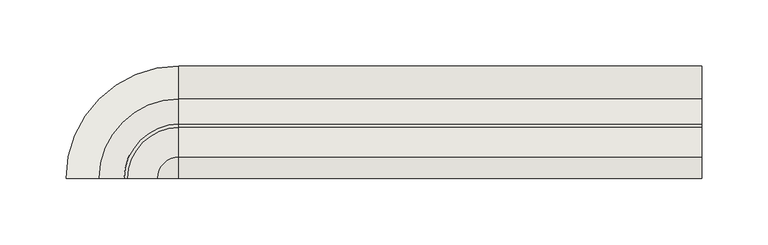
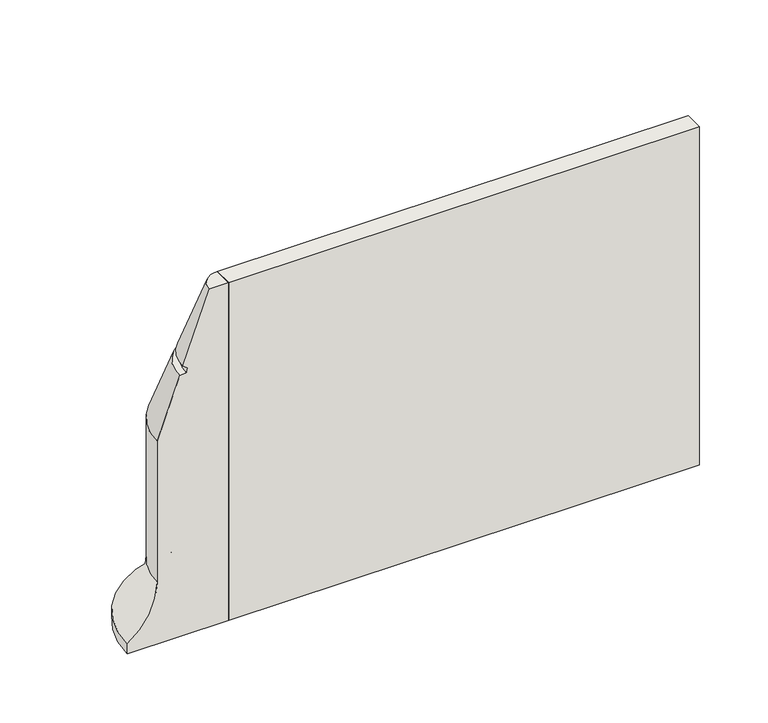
"""IFC4 building model written with IfcOpenShell, lengths in millimetres: wall geometry, GM_PC_UN_ACO kerb PB outside corner_ACO : PB H300 standard."""

from ifc_helpers import new_model, si_unit, frame, origin, place, context, project, spatial, polyline, circle_curve, source, transform, mapped, element, save
from ifc_brep_helpers import plane_surface, cylinder_surface, revolved_surface, extruded_surface, spline_curve, advanced_brep


def wall_c90a62e6(model_context):
    return source(origin(), model_context, "Body", "AdvancedBrep", [
        advanced_brep(
        [(0.0, 85.0, 8.9329844), (0.0, 85.0, -0.0124899), (0.0, 0.0, -0.0124899), (0.0, 0.0, 300.0008401), (0.0, 16.191681, 300.0008401), (0.0, 38.3747848, 239.3170113), (0.0, 34.2965161, 236.00239), (0.0, 35.6304755, 232.1929291), (0.0, 41.0897152, 231.6973826), (0.0, 60.02016, 180.0038512), (0.0, 60.02016, 54.9904169), (395.0, 85.0, 8.9329844), (395.0, 60.02016, 54.9904169), (395.0, 60.02016, 180.0038512), (395.0, 41.0897152, 231.6973826), (395.0, 35.6304755, 232.1929291), (395.0, 34.2965161, 236.00239), (395.0, 38.3747848, 239.3170113), (395.0, 16.191681, 300.0008401), (395.0, 0.0, 300.0008401), (395.0, 0.0, -0.0124899), (395.0, 85.0, -0.0124899)],
        [
            (0, 1),
            (1, 2),
            (2, 3),
            (3, 4),
            (4, 5),
            (5, 6),
            (6, 7),
            (7, 8),
            (8, 9),
            (9, 10),
            (10, 0, spline_curve(3, [(0.0, 60.02016, 54.9904169), (0.0, 60.0210198, 36.401179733), (0.0, 69.4194957, 19.0724445), (0.0, 85.0, 8.9329844)], [4, 4], [0.0, 1.0])),
            (11, 12, spline_curve(3, [(395.0, 85.0, 8.9329844), (395.0, 69.4194957, 19.0724445), (395.0, 60.0210198, 36.401179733), (395.0, 60.02016, 54.9904169)], [4, 4], [0.0, 1.0])),
            (12, 13),
            (13, 14),
            (14, 15),
            (15, 16),
            (16, 17),
            (17, 18),
            (18, 19),
            (19, 20),
            (20, 21),
            (21, 11),
            (10, 12),
            (11, 0),
            (9, 13),
            (8, 14),
            (7, 15),
            (6, 16),
            (5, 17),
            (4, 18),
            (3, 19),
            (2, 20),
            (1, 21),
        ],
        [
            plane_surface(frame((0.0, 0.0, 0.0), z_axis=(-1.0, 0.0, 0.0), x_axis=(0.0, 0.0, 1.0))),
            plane_surface(frame((395.0, 0.0, 0.0), z_axis=(1.0, 0.0, 0.0), x_axis=(0.0, 0.0, 1.0))),
            extruded_surface(spline_curve(3, [(395.0, 60.02016, 54.9904169), (395.0, 60.0210198, 36.401179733), (395.0, 69.4194957, 19.0724445), (395.0, 85.0, 8.9329844)], [4, 4], [0.0, 1.0]), (-395.0, 0.0, 0.0), 395.0),
            plane_surface(frame((0.0, 60.02016, 180.0038512), z_axis=(0.0, 1.0, 0.0), x_axis=(1.0, 0.0, 0.0))),
            plane_surface(frame((0.0, 41.0897152, 231.6973826), z_axis=(0.0, 0.9390162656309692, 0.34387272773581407), x_axis=(1.0, 0.0, 0.0))),
            plane_surface(frame((0.0, 35.6304755, 232.1929291), z_axis=(0.0, 0.09040040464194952, 0.995905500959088), x_axis=(1.0, 0.0, 0.0))),
            plane_surface(frame((0.0, 34.2965161, 236.00239), z_axis=(0.0, 0.9438082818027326, 0.3304934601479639), x_axis=(1.0, 0.0, 0.0))),
            plane_surface(frame((0.0, 38.3747848, 239.3170113), z_axis=(0.0, 0.6307104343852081, -0.776018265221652), x_axis=(1.0, 0.0, 0.0))),
            plane_surface(frame((0.0, 16.191681, 300.0008401), z_axis=(0.0, 0.9392141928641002, 0.3433317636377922), x_axis=(1.0, 0.0, 0.0))),
            plane_surface(frame((0.0, 0.0, 300.0008401), z_axis=(0.0, 0.0, 1.0), x_axis=(1.0, 0.0, 0.0))),
            plane_surface(frame((0.0, 0.0, -0.0124899), z_axis=(0.0, -1.0, 0.0), x_axis=(1.0, 0.0, 0.0))),
            plane_surface(frame((0.0, 85.0, -0.0124899), z_axis=(0.0, 0.0, -1.0), x_axis=(1.0, 0.0, 0.0))),
            plane_surface(frame((0.0, 85.0, 8.9329844), z_axis=(0.0, 1.0, 0.0), x_axis=(1.0, 0.0, 0.0))),
        ],
        [
            (0, [[1, 2, 3, 4, 5, 6, 7, 8, 9, 10, 11]]),
            (1, [[12, 13, 14, 15, 16, 17, 18, 19, 20, 21, 22]]),
            (2, [[-11, 23, -12, 24]]),
            (3, [[-10, 25, -13, -23]]),
            (4, [[-9, 26, -14, -25]]),
            (5, [[-8, 27, -15, -26]]),
            (6, [[-7, 28, -16, -27]]),
            (7, [[-6, 29, -17, -28]]),
            (8, [[-5, 30, -18, -29]]),
            (9, [[-4, 31, -19, -30]]),
            (10, [[-3, 32, -20, -31]]),
            (11, [[-2, 33, -21, -32]]),
            (12, [[-1, -24, -22, -33]]),
        ],
    ),
        advanced_brep(
        [(0.0, 85.0, 8.9329844), (0.0, 60.02016, 54.9904169), (0.0, 60.02016, 180.0038512), (0.0, 41.0897152, 231.6973826), (0.0, 35.6304755, 232.1929291), (0.0, 34.2965161, 236.00239), (0.0, 38.3747848, 239.3170113), (0.0, 16.191681, 300.0), (0.0, 0.0, 300.0), (0.0, 0.0, 0.0), (0.0, 85.0, 0.0), (-85.0, 0.0, 8.9329844), (-85.0, 0.0, 0.0), (-16.191681, 0.0, 300.0), (-38.3747848, 0.0, 239.3170113), (-34.2965161, 0.0, 236.00239), (-35.6304755, 0.0, 232.1929291), (-41.0897152, 0.0, 231.6973826), (-60.02016, 0.0, 180.0038512), (-60.02016, 0.0, 54.9904169)],
        [
            (0, 1, spline_curve(3, [(0.0, 85.0, 8.9329844), (0.0, 69.4194957, 19.0724445), (0.0, 60.0210198, 36.401179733), (0.0, 60.02016, 54.9904169)], [4, 4], [0.0, 1.0])),
            (1, 2),
            (2, 3),
            (3, 4),
            (4, 5),
            (5, 6),
            (6, 7),
            (7, 8),
            (8, 9),
            (9, 10),
            (10, 0),
            (11, 12),
            (12, 9),
            (8, 13),
            (13, 14),
            (14, 15),
            (15, 16),
            (16, 17),
            (17, 18),
            (18, 19),
            (19, 11, spline_curve(3, [(-60.02016, 0.0, 54.9904169), (-60.0210198, 0.0, 36.401179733), (-69.4194957, 0.0, 19.0724445), (-85.0, 0.0, 8.9329844)], [4, 4], [0.0, 1.0])),
            (19, 1, circle_curve(frame((0.0, 0.0, 54.9904169), z_axis=(0.0, 0.0, -1.0), x_axis=(0.0, 1.0, 0.0)), 60.02016)),
            (0, 11, circle_curve(frame((0.0, 0.0, 8.9329844), z_axis=(0.0, 0.0, 1.0), x_axis=(0.0, 1.0, 0.0)), 85.0)),
            (18, 2, circle_curve(frame((0.0, 0.0, 180.0038512), z_axis=(0.0, 0.0, -1.0), x_axis=(0.0, 1.0, 0.0)), 60.02016)),
            (17, 3, circle_curve(frame((0.0, 0.0, 231.6973826), z_axis=(0.0, 0.0, -1.0), x_axis=(0.0, 1.0, 0.0)), 41.0897152)),
            (16, 4, circle_curve(frame((0.0, 0.0, 232.1929291), z_axis=(0.0, 0.0, -1.0), x_axis=(0.0, 1.0, 0.0)), 35.6304755)),
            (15, 5, circle_curve(frame((0.0, 0.0, 236.00239), z_axis=(0.0, 0.0, -1.0), x_axis=(0.0, 1.0, 0.0)), 34.2965161)),
            (14, 6, circle_curve(frame((0.0, 0.0, 239.3170113), z_axis=(0.0, 0.0, -1.0), x_axis=(0.0, 1.0, 0.0)), 38.3747848)),
            (13, 7, circle_curve(frame((0.0, 0.0, 300.0), z_axis=(0.0, 0.0, -1.0), x_axis=(0.0, 1.0, 0.0)), 16.191681)),
            (12, 10, circle_curve(frame((0.0, 0.0, 0.0), z_axis=(0.0, 0.0, -1.0), x_axis=(0.0, 1.0, 0.0)), 85.0)),
        ],
        [
            plane_surface(frame((0.0, 0.0, 559.9991599), z_axis=(1.0, 0.0, 0.0), x_axis=(0.0, 1.0, 0.0))),
            plane_surface(frame((0.0, 0.0, 559.9991599), z_axis=(0.0, -1.0, 0.0), x_axis=(-1.0, 0.0, 0.0))),
            revolved_surface(spline_curve(3, [(0.0, 85.0, 8.9329844), (0.0, 69.4194957, 19.0724445), (0.0, 60.0210198, 36.401179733), (0.0, 60.02016, 54.9904169)], [4, 4], [0.0, 1.0]), (0.0, 0.0, 559.9991599), (0.0, 0.0, 1.0)),
            cylinder_surface(frame((0.0, 0.0, 559.9991599), z_axis=(0.0, 0.0, 1.0), x_axis=(0.0, 1.0, 0.0)), 60.02016),
            revolved_surface(polyline([(0.0, 60.02016, 180.0038512), (0.0, 41.0897152, 231.6973826)]), (0.0, 0.0, 559.9991599), (0.0, 0.0, 1.0)),
            revolved_surface(polyline([(0.0, 41.0897152, 231.6973826), (0.0, 35.6304755, 232.1929291)]), (0.0, 0.0, 559.9991599), (0.0, 0.0, 1.0)),
            revolved_surface(polyline([(0.0, 35.6304755, 232.1929291), (0.0, 34.2965161, 236.00239)]), (0.0, 0.0, 559.9991599), (0.0, 0.0, 1.0)),
            revolved_surface(polyline([(0.0, 34.2965161, 236.00239), (0.0, 38.3747848, 239.3170113)]), (0.0, 0.0, 559.9991599), (0.0, 0.0, 1.0)),
            revolved_surface(polyline([(0.0, 38.3747848, 239.3170113), (0.0, 16.191681, 300.0)]), (0.0, 0.0, 559.9991599), (0.0, 0.0, 1.0)),
            plane_surface(frame((0.0, 0.0, 300.0), z_axis=(0.0, 0.0, 1.0), x_axis=(0.0, 1.0, 0.0))),
            plane_surface(frame((0.0, 0.0, 0.0), z_axis=(0.0, 0.0, -1.0), x_axis=(0.0, 1.0, 0.0))),
            cylinder_surface(frame((0.0, 0.0, 559.9991599), z_axis=(0.0, 0.0, 1.0), x_axis=(0.0, 1.0, 0.0)), 85.0),
        ],
        [
            (0, [[1, 2, 3, 4, 5, 6, 7, 8, 9, 10, 11]]),
            (1, [[12, 13, -9, 14, 15, 16, 17, 18, 19, 20, 21]]),
            (2, [[22, -1, 23, -21]]),
            (3, [[24, -2, -22, -20]]),
            (4, [[25, -3, -24, -19]]),
            (5, [[26, -4, -25, -18]]),
            (6, [[27, -5, -26, -17]]),
            (7, [[28, -6, -27, -16]]),
            (8, [[29, -7, -28, -15]]),
            (9, [[-8, -29, -14]]),
            (10, [[30, -10, -13]]),
            (11, [[-23, -11, -30, -12]]),
        ],
    ),
    ])


if __name__ == "__main__":
    model = new_model("IFC4")
    model_context = context("Model", 3, world=origin())
    ifc_project = project(units=[si_unit("LENGTHUNIT", "METRE", prefix="MILLI")], contexts=[model_context])
    site = spatial("IfcSite", under=ifc_project)
    building = spatial("IfcBuilding", under=site)
    placement = place(None, origin())
    wall_shape = wall_c90a62e6(model_context)
    element("IfcWall", 1, ObjectType="GM_PC_UN_ACO kerb PB outside corner_ACO : PB H300 standard", at=placement, inside=building, context=model_context, shape_type="MappedRepresentation", body=[
        mapped(wall_shape, transform((0.0, 0.0, 0.0), x_axis=(1.0, 0.0, 0.0), y_axis=(0.0, 1.0, 0.0), z_axis=(0.0, 0.0, 1.0))),
    ])
    save(model, "model.ifc")
